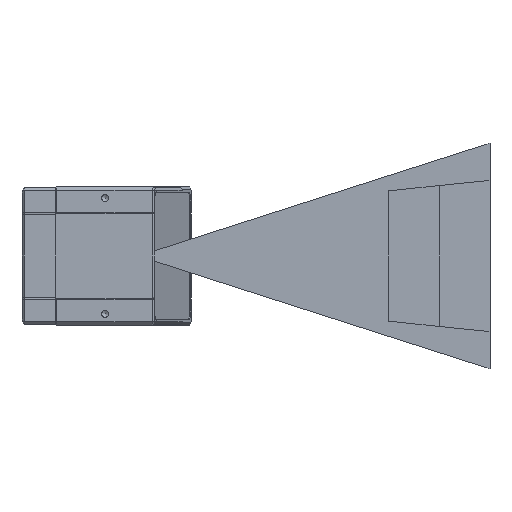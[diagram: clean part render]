
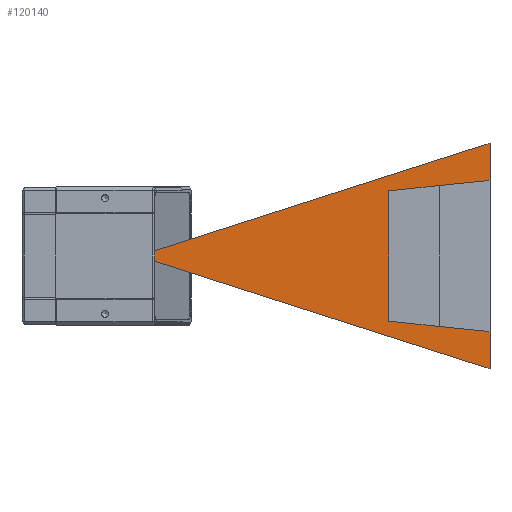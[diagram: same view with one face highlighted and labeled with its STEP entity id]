
A CAD part, left-side view. The second image highlights one B-rep face of the part: STEP entity #120140.
In plain terms, the highlighted planar face has unit normal (-1, 0, 0).
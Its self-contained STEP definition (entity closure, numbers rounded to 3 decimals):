
#1027 = CARTESIAN_POINT ( 'NONE',  ( -0.001, -124.5, 0. ) ) ;
#2475 = DIRECTION ( 'NONE',  ( -1., 0., 0. ) ) ;
#2800 = CARTESIAN_POINT ( 'NONE',  ( -0.001, -124.5, 0. ) ) ;
#3540 = LINE ( 'NONE', #127360, #105215 ) ;
#4691 = ORIENTED_EDGE ( 'NONE', *, *, #124329, .F. ) ;
#7975 = EDGE_CURVE ( 'NONE', #39971, #28818, #134406, .T. ) ;
#10517 = CARTESIAN_POINT ( 'NONE',  ( -0.001, -88.5, 23.1 ) ) ;
#14199 = FACE_OUTER_BOUND ( 'NONE', #54302, .T. ) ;
#14555 = DIRECTION ( 'NONE',  ( 0., 0., -1. ) ) ;
#15055 = CARTESIAN_POINT ( 'NONE',  ( -0.001, -106.5, -25. ) ) ;
#15064 = CARTESIAN_POINT ( 'NONE',  ( -0.001, 0., 0. ) ) ;
#16534 = VECTOR ( 'NONE', #45672, 1000. ) ;
#17783 = VECTOR ( 'NONE', #102831, 1000. ) ;
#18189 = EDGE_CURVE ( 'NONE', #133376, #99569, #3540, .T. ) ;
#19593 = EDGE_CURVE ( 'NONE', #138198, #78367, #60981, .T. ) ;
#22236 = CARTESIAN_POINT ( 'NONE',  ( -0.001, 0., 0. ) ) ;
#23683 = CARTESIAN_POINT ( 'NONE',  ( -0.001, -124.5, -40. ) ) ;
#23776 = DIRECTION ( 'NONE',  ( 0., 0., -1. ) ) ;
#26991 = DIRECTION ( 'NONE',  ( 0., 0., -1. ) ) ;
#28005 = ORIENTED_EDGE ( 'NONE', *, *, #57372, .F. ) ;
#28818 = VERTEX_POINT ( 'NONE', #23683 ) ;
#30288 = CARTESIAN_POINT ( 'NONE',  ( -0.001, -124.5, -26.8 ) ) ;
#30880 = LINE ( 'NONE', #64110, #94138 ) ;
#32974 = EDGE_CURVE ( 'NONE', #78367, #85171, #138242, .T. ) ;
#33063 = VECTOR ( 'NONE', #23776, 1000. ) ;
#39971 = VERTEX_POINT ( 'NONE', #30288 ) ;
#40158 = CARTESIAN_POINT ( 'NONE',  ( -0.001, -106.5, -25. ) ) ;
#41018 = DIRECTION ( 'NONE',  ( 0., 0.994, -0.105 ) ) ;
#41624 = ORIENTED_EDGE ( 'NONE', *, *, #7975, .F. ) ;
#45672 = DIRECTION ( 'NONE',  ( 0., 0.952, 0.306 ) ) ;
#47330 = DIRECTION ( 'NONE',  ( 0., 1., 0. ) ) ;
#48186 = LINE ( 'NONE', #15064, #17783 ) ;
#50574 = LINE ( 'NONE', #95576, #16534 ) ;
#54302 = EDGE_LOOP ( 'NONE', ( #70120, #114839, #82838, #4691, #41624, #28005, #101679, #137119, #65816 ) ) ;
#56828 = EDGE_CURVE ( 'NONE', #99569, #108476, #30880, .T. ) ;
#57372 = EDGE_CURVE ( 'NONE', #108476, #39971, #63026, .T. ) ;
#59182 = PLANE ( 'NONE',  #83755 ) ;
#59454 = CARTESIAN_POINT ( 'NONE',  ( -0.001, -124.5, 26.8 ) ) ;
#60981 = LINE ( 'NONE', #2800, #68246 ) ;
#63026 = LINE ( 'NONE', #40158, #97623 ) ;
#64110 = CARTESIAN_POINT ( 'NONE',  ( -0.001, -106.5, -25. ) ) ;
#65316 = EDGE_CURVE ( 'NONE', #85171, #133376, #97066, .T. ) ;
#65816 = ORIENTED_EDGE ( 'NONE', *, *, #65316, .F. ) ;
#66503 = DIRECTION ( 'NONE',  ( 0., -0.995, -0.1 ) ) ;
#68246 = VECTOR ( 'NONE', #26991, 1000. ) ;
#69799 = VECTOR ( 'NONE', #41018, 1000. ) ;
#70120 = ORIENTED_EDGE ( 'NONE', *, *, #32974, .F. ) ;
#71271 = CARTESIAN_POINT ( 'NONE',  ( -0.001, -106.5, 25. ) ) ;
#76441 = CARTESIAN_POINT ( 'NONE',  ( -0.001, -88.5, 23.1 ) ) ;
#76651 = DIRECTION ( 'NONE',  ( 0., -0.994, -0.105 ) ) ;
#78367 = VERTEX_POINT ( 'NONE', #126682 ) ;
#82746 = VECTOR ( 'NONE', #98262, 1000. ) ;
#82838 = ORIENTED_EDGE ( 'NONE', *, *, #117449, .F. ) ;
#83755 = AXIS2_PLACEMENT_3D ( 'NONE', #139400, #2475, #47330 ) ;
#85171 = VERTEX_POINT ( 'NONE', #71271 ) ;
#90202 = CARTESIAN_POINT ( 'NONE',  ( -0.001, -88.5, -23.1 ) ) ;
#94138 = VECTOR ( 'NONE', #76651, 1000. ) ;
#95576 = CARTESIAN_POINT ( 'NONE',  ( -0.001, -124.5, -40. ) ) ;
#97066 = LINE ( 'NONE', #76441, #69799 ) ;
#97623 = VECTOR ( 'NONE', #66503, 1000. ) ;
#98262 = DIRECTION ( 'NONE',  ( 0., 0.995, -0.1 ) ) ;
#99569 = VERTEX_POINT ( 'NONE', #90202 ) ;
#101679 = ORIENTED_EDGE ( 'NONE', *, *, #56828, .F. ) ;
#102831 = DIRECTION ( 'NONE',  ( 0., -0.952, 0.306 ) ) ;
#105215 = VECTOR ( 'NONE', #14555, 1000. ) ;
#108476 = VERTEX_POINT ( 'NONE', #15055 ) ;
#112838 = VERTEX_POINT ( 'NONE', #22236 ) ;
#114839 = ORIENTED_EDGE ( 'NONE', *, *, #19593, .F. ) ;
#117449 = EDGE_CURVE ( 'NONE', #112838, #138198, #48186, .T. ) ;
#120140 = ADVANCED_FACE ( 'NONE', ( #14199 ), #59182, .T. ) ;
#124329 = EDGE_CURVE ( 'NONE', #28818, #112838, #50574, .T. ) ;
#126682 = CARTESIAN_POINT ( 'NONE',  ( -0.001, -124.5, 26.8 ) ) ;
#127360 = CARTESIAN_POINT ( 'NONE',  ( -0.001, -88.5, 23.1 ) ) ;
#133376 = VERTEX_POINT ( 'NONE', #10517 ) ;
#134406 = LINE ( 'NONE', #1027, #33063 ) ;
#137119 = ORIENTED_EDGE ( 'NONE', *, *, #18189, .F. ) ;
#138198 = VERTEX_POINT ( 'NONE', #144489 ) ;
#138242 = LINE ( 'NONE', #59454, #82746 ) ;
#139400 = CARTESIAN_POINT ( 'NONE',  ( -0.001, 0., 0. ) ) ;
#144489 = CARTESIAN_POINT ( 'NONE',  ( -0.001, -124.5, 40. ) ) ;
